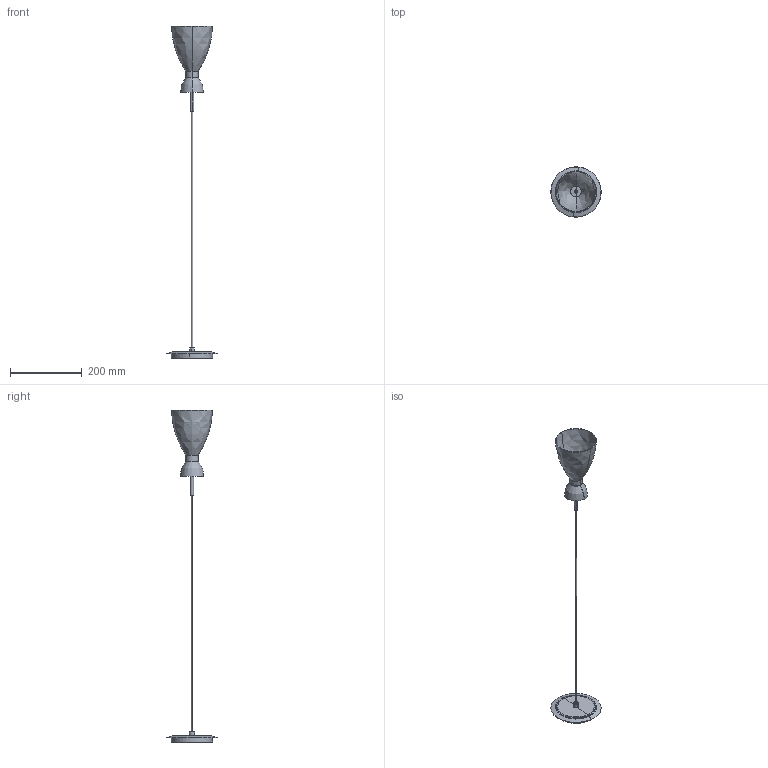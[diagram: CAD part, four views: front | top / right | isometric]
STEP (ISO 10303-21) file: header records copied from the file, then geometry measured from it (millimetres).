
FILE_DESCRIPTION(/* description */ (''),/* implementation_level */ '2;1');
FILE_NAME(/* name */ 'C:\Users\francosartori\Documents\Modelos\01_Digitalizados\1_RETRO\03_Publicación\20050.stp',/* time_stamp */ '2020-06-18T14:29:45+02:00',/* author */ ('FrancoSartori'),/* organization */ (''),/* preprocessor_version */ 'ST-DEVELOPER v18.1',/* originating_system */ 'AutoCAD Mechanical',/* authorisation */ '');
FILE_SCHEMA (('AUTOMOTIVE_DESIGN { 1 0 10303 214 3 1 1 }'));
Length unit declared in the file: millimetre
Products named in the file (3): Product; 20016_20046_20050_support - RETRO-465783-_3D_; 20016_20046_20050_lamp - RETRO lamp-465784-_3D_
Assembly tree (2 placements, depth 2):
  Product
    20016_20046_20050_support - RETRO-465783-_3D_
    20016_20046_20050_lamp - RETRO lamp-465784-_3D_
Bounding box: 140.16 x 140.16 x 927 mm (x, y, z)
Volume: 117025.7 mm3; surface area: 240736.3 mm2
Topology: 7 solids, 7 shells, 88 faces, 174 edges, 88 vertices
Faces by surface type: plane 34, cylinder 24, bspline 16, cone 8, torus 6
Entity records: 2690 total; most frequent: CARTESIAN_POINT 841, DIRECTION 402, ORIENTED_EDGE 348, EDGE_CURVE 174, AXIS2_PLACEMENT_3D 169, CIRCLE 92, FACE_OUTER_BOUND 88, EDGE_LOOP 88
